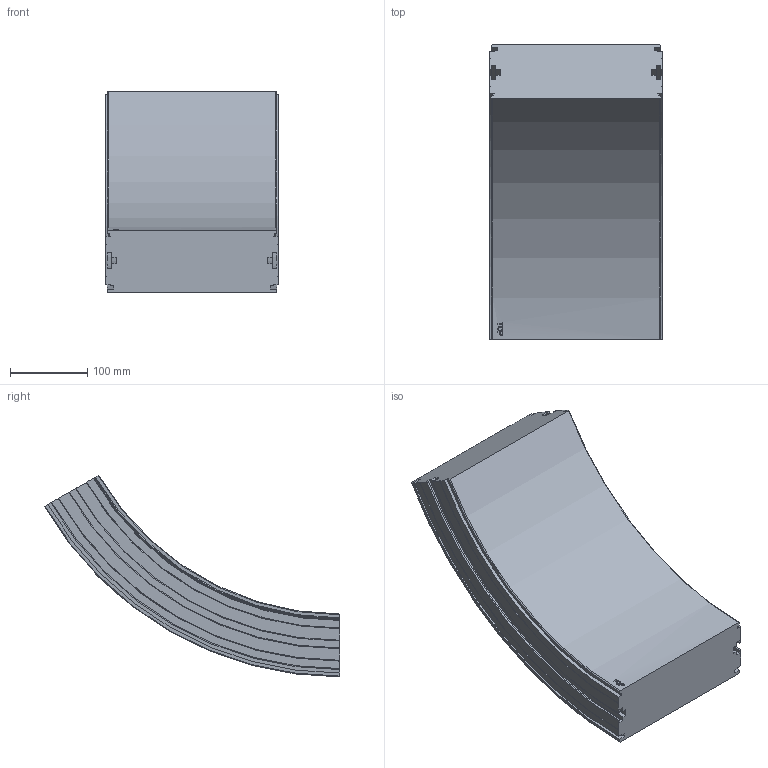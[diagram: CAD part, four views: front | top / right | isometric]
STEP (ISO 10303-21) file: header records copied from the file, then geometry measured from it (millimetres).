
FILE_DESCRIPTION(/* description */ ('VERTIKALKURVA S220 R400'),/* implementation_level */ '2;1');
FILE_NAME(/* name */ '\\carryline.intra\privat\users\mathias\Desktop\Tillfälliga filer\220-5645+220-2000-UPP-01.stp',/* time_stamp */ '2018-11-29T13:48:27+01:00',/* author */ ('MD'),/* organization */ ('CARRYLINE'),/* preprocessor_version */ 'ST-DEVELOPER v17',/* originating_system */ 'Autodesk Inventor 2018',/* authorisation */ '');
FILE_SCHEMA (('AUTOMOTIVE_DESIGN { 1 0 10303 214 3 1 1 }'));
Length unit declared in the file: millimetre
Products named in the file (1): 220-5645+220-2000-UPP-01
Bounding box: 224 x 382.78 x 261.75 mm (x, y, z)
Volume: 7433086.4 mm3; surface area: 352328.4 mm2
Topology: 1 solids, 1 shells, 113 faces, 318 edges, 212 vertices
Faces by surface type: plane 48, cylinder 31, bspline 14, cone 14, torus 6
Entity records: 8361 total; most frequent: CARTESIAN_POINT 5393, ORIENTED_EDGE 636, DIRECTION 576, EDGE_CURVE 318, VERTEX_POINT 212, AXIS2_PLACEMENT_3D 199, LINE 178, VECTOR 178
